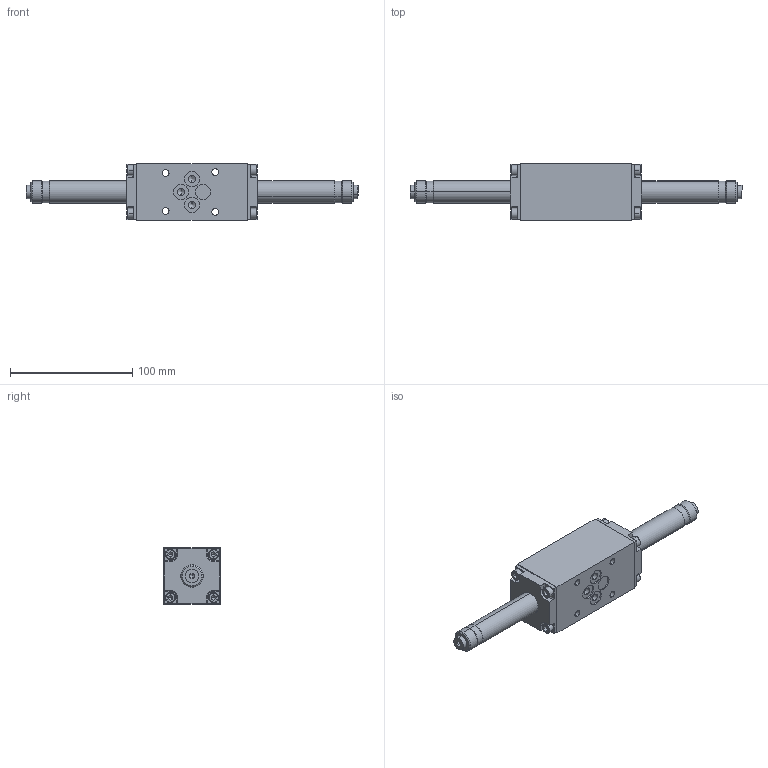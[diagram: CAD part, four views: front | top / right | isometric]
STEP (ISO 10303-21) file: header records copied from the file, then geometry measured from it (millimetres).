
FILE_DESCRIPTION (( 'STEP AP214' ), '1' );
FILE_NAME ('AEXd3406.STEP', '2017-03-02T06:54:42', ( '' ), ( '' ), 'SwSTEP 2.0', 'SolidWorks 2016', '' );
FILE_SCHEMA (( 'AUTOMOTIVE_DESIGN' ));
Length unit declared in the file: millimetre
Products named in the file (1): AEXd3406
Bounding box: 271.2 x 46 x 46 mm (x, y, z)
Volume: 251249 mm3; surface area: 43197.2 mm2
Topology: 3 solids, 29 shells, 1096 faces, 2852 edges, 1803 vertices
Faces by surface type: plane 746, cylinder 186, cone 98, torus 44, sphere 16, bspline 6
Entity records: 45277 total; most frequent: CARTESIAN_POINT 6197, DIRECTION 5612, ORIENTED_EDGE 5580, EDGE_CURVE 2790, LINE 2080, VECTOR 2080, VERTEX_POINT 1803, AXIS2_PLACEMENT_3D 1766
